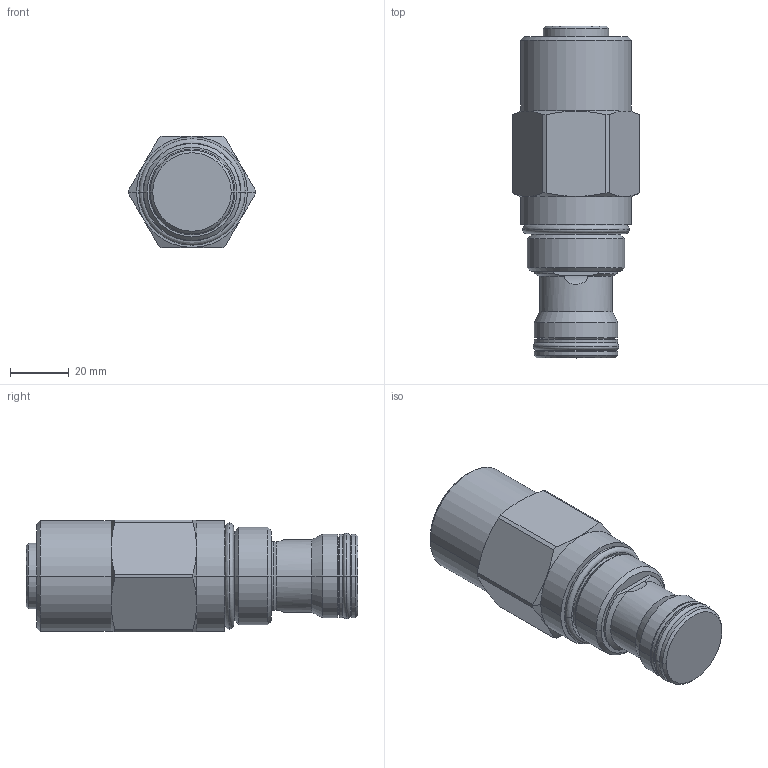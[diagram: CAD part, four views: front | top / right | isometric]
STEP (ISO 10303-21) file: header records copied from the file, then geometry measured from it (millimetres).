
FILE_DESCRIPTION((''),'2;1');
FILE_NAME('5623500_SW0001','2009-03-25T',('JCS'),(''),'PRO/ENGINEER BY PARAMETRIC TECHNOLOGY CORPORATION, 2008510','PRO/ENGINEER BY PARAMETRIC TECHNOLOGY CORPORATION, 2008510','');
FILE_SCHEMA(('CONFIG_CONTROL_DESIGN'));
Length unit declared in the file: inch
Products named in the file (1): 5623500_SW0001
Bounding box: 43.23 x 113.25 x 38.1 mm (x, y, z)
Volume: 106877.7 mm3; surface area: 17471.3 mm2
Topology: 3 solids, 3 shells, 115 faces, 260 edges, 151 vertices
Faces by surface type: cylinder 36, cone 28, plane 27, revolution 16, torus 8
Entity records: 3710 total; most frequent: CARTESIAN_POINT 1116, DIRECTION 546, ORIENTED_EDGE 516, EDGE_CURVE 258, AXIS2_PLACEMENT_3D 221, VERTEX_POINT 151, CIRCLE 122, EDGE_LOOP 121
